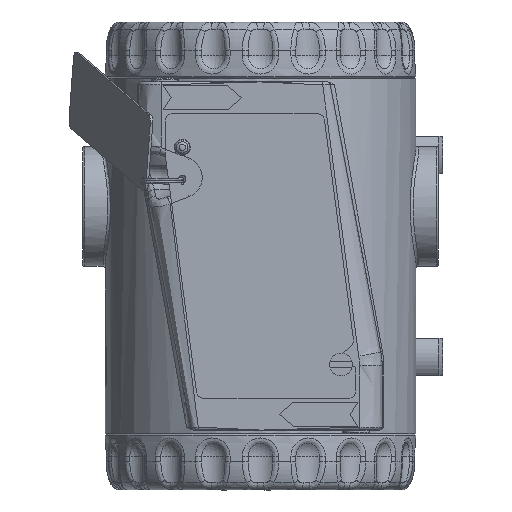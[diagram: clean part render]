
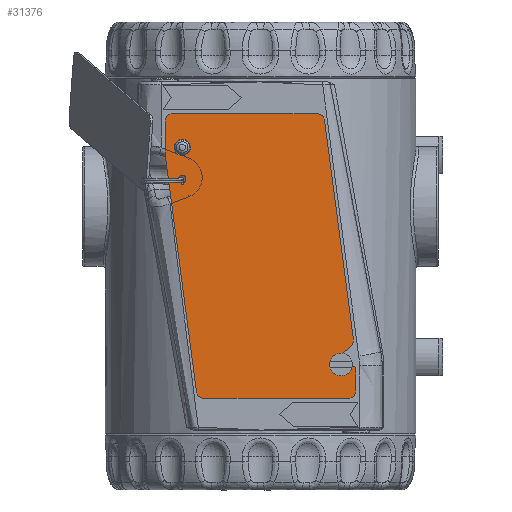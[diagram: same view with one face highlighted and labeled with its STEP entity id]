
A CAD part, left-side view. The second image highlights one B-rep face of the part: STEP entity #31376.
In plain terms, the highlighted planar face has unit normal (-1, 0, 0) as drawn and (0, 0, 1) by its records, which use the part's own axes.
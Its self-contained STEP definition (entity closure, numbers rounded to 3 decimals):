
#1022=PLANE('',#35225);
#1506=FACE_BOUND('',#8512,.T.);
#1507=FACE_BOUND('',#8513,.T.);
#2785=LINE('',#70064,#4214);
#2789=LINE('',#70076,#4218);
#2793=LINE('',#70088,#4222);
#2797=LINE('',#70100,#4226);
#2801=LINE('',#70112,#4230);
#2804=LINE('',#70118,#4233);
#2808=LINE('',#70130,#4237);
#2812=LINE('',#70141,#4241);
#4214=VECTOR('',#43077,10.);
#4218=VECTOR('',#43089,10.);
#4222=VECTOR('',#43101,10.);
#4226=VECTOR('',#43113,10.);
#4230=VECTOR('',#43125,10.);
#4233=VECTOR('',#43130,10.);
#4237=VECTOR('',#43142,10.);
#4241=VECTOR('',#43154,10.);
#6504=FACE_OUTER_BOUND('',#8511,.T.);
#8511=EDGE_LOOP('',(#27389,#27390,#27391,#27392,#27393,#27394,#27395,#27396,
#27397,#27398,#27399,#27400,#27401,#27402,#27403));
#8512=EDGE_LOOP('',(#27404));
#8513=EDGE_LOOP('',(#27405));
#10592=CIRCLE('',#35191,1.35);
#10594=CIRCLE('',#35194,1.);
#10595=CIRCLE('',#35196,2.);
#10597=CIRCLE('',#35200,2.);
#10599=CIRCLE('',#35204,1.);
#10601=CIRCLE('',#35208,2.);
#10603=CIRCLE('',#35212,2.);
#10605=CIRCLE('',#35217,2.);
#10607=CIRCLE('',#35221,2.);
#14416=VERTEX_POINT('',#70044);
#14418=VERTEX_POINT('',#70050);
#14419=VERTEX_POINT('',#70054);
#14420=VERTEX_POINT('',#70055);
#14423=VERTEX_POINT('',#70063);
#14425=VERTEX_POINT('',#70069);
#14427=VERTEX_POINT('',#70075);
#14429=VERTEX_POINT('',#70081);
#14431=VERTEX_POINT('',#70087);
#14433=VERTEX_POINT('',#70093);
#14435=VERTEX_POINT('',#70099);
#14437=VERTEX_POINT('',#70105);
#14439=VERTEX_POINT('',#70111);
#14441=VERTEX_POINT('',#70117);
#14443=VERTEX_POINT('',#70123);
#14445=VERTEX_POINT('',#70129);
#14447=VERTEX_POINT('',#70135);
#18812=EDGE_CURVE('',#14416,#14416,#10592,.T.);
#18815=EDGE_CURVE('',#14418,#14418,#10594,.T.);
#18816=EDGE_CURVE('',#14419,#14420,#10595,.T.);
#18820=EDGE_CURVE('',#14420,#14423,#2785,.T.);
#18823=EDGE_CURVE('',#14423,#14425,#10597,.T.);
#18826=EDGE_CURVE('',#14425,#14427,#2789,.T.);
#18829=EDGE_CURVE('',#14427,#14429,#10599,.T.);
#18832=EDGE_CURVE('',#14429,#14431,#2793,.T.);
#18835=EDGE_CURVE('',#14431,#14433,#10601,.T.);
#18838=EDGE_CURVE('',#14433,#14435,#2797,.T.);
#18841=EDGE_CURVE('',#14435,#14437,#10603,.T.);
#18844=EDGE_CURVE('',#14437,#14439,#2801,.T.);
#18847=EDGE_CURVE('',#14439,#14441,#2804,.T.);
#18850=EDGE_CURVE('',#14441,#14443,#10605,.T.);
#18853=EDGE_CURVE('',#14443,#14445,#2808,.T.);
#18856=EDGE_CURVE('',#14445,#14447,#10607,.T.);
#18859=EDGE_CURVE('',#14447,#14419,#2812,.T.);
#27389=ORIENTED_EDGE('',*,*,#18816,.F.);
#27390=ORIENTED_EDGE('',*,*,#18859,.F.);
#27391=ORIENTED_EDGE('',*,*,#18856,.F.);
#27392=ORIENTED_EDGE('',*,*,#18853,.F.);
#27393=ORIENTED_EDGE('',*,*,#18850,.F.);
#27394=ORIENTED_EDGE('',*,*,#18847,.F.);
#27395=ORIENTED_EDGE('',*,*,#18844,.F.);
#27396=ORIENTED_EDGE('',*,*,#18841,.F.);
#27397=ORIENTED_EDGE('',*,*,#18838,.F.);
#27398=ORIENTED_EDGE('',*,*,#18835,.F.);
#27399=ORIENTED_EDGE('',*,*,#18832,.F.);
#27400=ORIENTED_EDGE('',*,*,#18829,.F.);
#27401=ORIENTED_EDGE('',*,*,#18826,.F.);
#27402=ORIENTED_EDGE('',*,*,#18823,.F.);
#27403=ORIENTED_EDGE('',*,*,#18820,.F.);
#27404=ORIENTED_EDGE('',*,*,#18812,.T.);
#27405=ORIENTED_EDGE('',*,*,#18815,.T.);
#31376=ADVANCED_FACE('',(#6504,#1506,#1507),#1022,.T.);
#35191=AXIS2_PLACEMENT_3D('',#70046,#43058,#43059);
#35194=AXIS2_PLACEMENT_3D('',#70052,#43065,#43066);
#35196=AXIS2_PLACEMENT_3D('',#70056,#43069,#43070);
#35200=AXIS2_PLACEMENT_3D('',#70070,#43082,#43083);
#35204=AXIS2_PLACEMENT_3D('',#70082,#43094,#43095);
#35208=AXIS2_PLACEMENT_3D('',#70094,#43106,#43107);
#35212=AXIS2_PLACEMENT_3D('',#70106,#43118,#43119);
#35217=AXIS2_PLACEMENT_3D('',#70124,#43135,#43136);
#35221=AXIS2_PLACEMENT_3D('',#70136,#43147,#43148);
#35225=AXIS2_PLACEMENT_3D('',#70144,#43158,#43159);
#43058=DIRECTION('center_axis',(0.,0.,-1.));
#43059=DIRECTION('ref_axis',(-1.,0.,0.));
#43065=DIRECTION('center_axis',(0.,0.,-1.));
#43066=DIRECTION('ref_axis',(-1.,0.,0.));
#43069=DIRECTION('center_axis',(0.,0.,-1.));
#43070=DIRECTION('ref_axis',(0.766,0.643,0.));
#43077=DIRECTION('',(0.643,-0.766,0.));
#43082=DIRECTION('center_axis',(0.,0.,1.));
#43083=DIRECTION('ref_axis',(0.766,0.643,0.));
#43089=DIRECTION('',(-0.643,0.766,0.));
#43094=DIRECTION('center_axis',(0.,0.,-1.));
#43095=DIRECTION('ref_axis',(0.,1.,0.));
#43101=DIRECTION('',(1.,0.,0.));
#43106=DIRECTION('center_axis',(0.,0.,-1.));
#43107=DIRECTION('ref_axis',(1.,0.,0.));
#43113=DIRECTION('',(0.,-1.,0.));
#43118=DIRECTION('center_axis',(0.,0.,-1.));
#43119=DIRECTION('ref_axis',(0.131,-0.991,0.));
#43125=DIRECTION('',(-0.991,-0.131,0.));
#43130=DIRECTION('',(-1.,0.,0.));
#43135=DIRECTION('center_axis',(0.,0.,-1.));
#43136=DIRECTION('ref_axis',(-1.,0.,0.));
#43142=DIRECTION('',(0.,1.,0.));
#43147=DIRECTION('center_axis',(0.,0.,-1.));
#43148=DIRECTION('ref_axis',(-0.131,0.991,0.));
#43154=DIRECTION('',(0.991,0.131,0.));
#43158=DIRECTION('center_axis',(0.,0.,1.));
#43159=DIRECTION('ref_axis',(1.,0.,0.));
#70044=CARTESIAN_POINT('',(10.35,4.599,0.7));
#70046=CARTESIAN_POINT('Origin',(9.,4.599,0.7));
#70050=CARTESIAN_POINT('',(18.4,4.599,0.7));
#70052=CARTESIAN_POINT('Origin',(17.4,4.599,0.7));
#70054=CARTESIAN_POINT('',(60.389,50.327,0.7));
#70055=CARTESIAN_POINT('',(62.182,49.63,0.7));
#70056=CARTESIAN_POINT('Origin',(60.65,48.344,0.7));
#70063=CARTESIAN_POINT('',(65.468,45.714,0.7));
#70064=CARTESIAN_POINT('',(65.468,45.714,0.7));
#70069=CARTESIAN_POINT('',(68.532,48.286,0.7));
#70070=CARTESIAN_POINT('Origin',(67.,47.,0.7));
#70075=CARTESIAN_POINT('',(67.633,49.357,0.7));
#70076=CARTESIAN_POINT('',(67.633,49.357,0.7));
#70081=CARTESIAN_POINT('',(68.399,51.,0.7));
#70082=CARTESIAN_POINT('Origin',(68.399,50.,0.7));
#70087=CARTESIAN_POINT('',(74.,51.,0.7));
#70088=CARTESIAN_POINT('',(74.,51.,0.7));
#70093=CARTESIAN_POINT('',(76.,49.,0.7));
#70094=CARTESIAN_POINT('Origin',(74.,49.,0.7));
#70099=CARTESIAN_POINT('',(76.,10.377,0.7));
#70100=CARTESIAN_POINT('',(76.,10.377,0.7));
#70105=CARTESIAN_POINT('',(74.261,8.394,0.7));
#70106=CARTESIAN_POINT('Origin',(74.,10.377,0.7));
#70111=CARTESIAN_POINT('',(10.5,0.,0.7));
#70112=CARTESIAN_POINT('',(10.5,0.,0.7));
#70117=CARTESIAN_POINT('',(2.,0.,0.7));
#70118=CARTESIAN_POINT('',(2.,0.,0.7));
#70123=CARTESIAN_POINT('',(0.,2.,0.7));
#70124=CARTESIAN_POINT('Origin',(2.,2.,0.7));
#70129=CARTESIAN_POINT('',(0.,40.623,0.7));
#70130=CARTESIAN_POINT('',(0.,40.623,0.7));
#70135=CARTESIAN_POINT('',(1.739,42.606,0.7));
#70136=CARTESIAN_POINT('Origin',(2.,40.623,0.7));
#70141=CARTESIAN_POINT('',(60.389,50.327,0.7));
#70144=CARTESIAN_POINT('Origin',(39.077,26.228,0.7));
